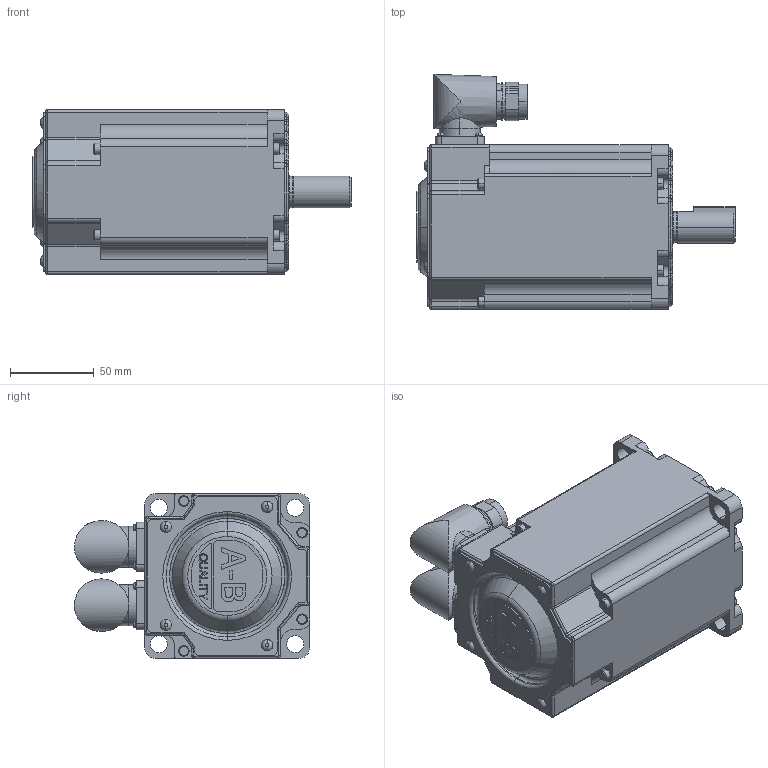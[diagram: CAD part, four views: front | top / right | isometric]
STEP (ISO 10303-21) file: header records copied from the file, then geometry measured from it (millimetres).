
FILE_DESCRIPTION (( 'STEP AP214' ), '1' );
FILE_NAME ('Rockwell Automation-MPM-B1151T-xx72xx.STEP', '2012-09-24T14:53:22', ( 'sysAdmin' ), ( 'SolidWorks' ), 'SwSTEP 2.0', 'SolidWorks 2012', '' );
FILE_SCHEMA (( 'AUTOMOTIVE_DESIGN' ));
Length unit declared in the file: inch
Products named in the file (5): Rockwell Automation-MPM-B1151T-xx72xx_MPM-xxxx-Power Connector-M23; Rockwell Automation-MPM-B1151T-xx72xx_MPM-xxxx-Encoder Connector; Rockwell Automation-MPM-B1151T-xx72xx_MPM-115x-Shaft_1151-shaft-key; Rockwell Automation-MPM-B1151T-xx72xx_MPM-115x-Body_1151; Rockwell Automation-MPM-B1151T-xx72xx
Assembly tree (4 placements, depth 2):
  Rockwell Automation-MPM-B1151T-xx72xx
    Rockwell Automation-MPM-B1151T-xx72xx_MPM-115x-Body_1151
    Rockwell Automation-MPM-B1151T-xx72xx_MPM-115x-Shaft_1151-shaft-key
    Rockwell Automation-MPM-B1151T-xx72xx_MPM-xxxx-Encoder Connector
    Rockwell Automation-MPM-B1151T-xx72xx_MPM-xxxx-Power Connector-M23
Bounding box: 189.87 x 140.21 x 98.3 mm (x, y, z)
Volume: 515919.9 mm3; surface area: 185460.5 mm2
Topology: 5 solids, 5 shells, 1035 faces, 2548 edges, 1622 vertices
Faces by surface type: plane 417, cylinder 390, cone 100, torus 96, bspline 32
Entity records: 35724 total; most frequent: CARTESIAN_POINT 7581, DIRECTION 5536, ORIENTED_EDGE 5092, EDGE_CURVE 2546, AXIS2_PLACEMENT_3D 2088, VERTEX_POINT 1622, VECTOR 1360, LINE 1360
